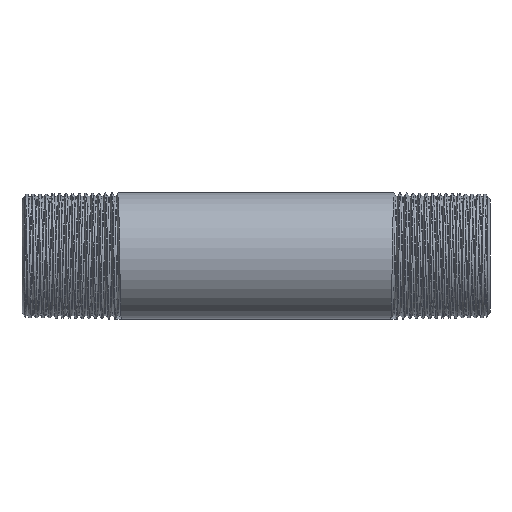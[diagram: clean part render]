
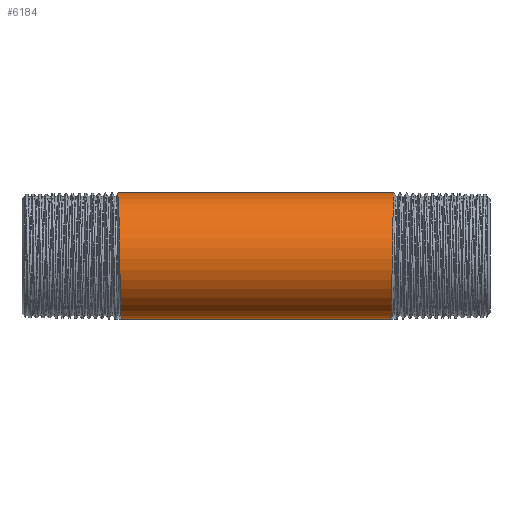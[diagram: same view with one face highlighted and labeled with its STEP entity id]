
A CAD part, front view. The second image highlights one B-rep face of the part: STEP entity #6184.
In plain terms, the highlighted cylindrical face has radius 6.75 mm (diameter 13.5 mm), a partial arc.
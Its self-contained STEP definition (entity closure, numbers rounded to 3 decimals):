
#866 = DIRECTION ( 'NONE',  ( -1., 0., 0. ) ) ;
#953 = EDGE_CURVE ( 'NONE', #4071, #3941, #4096, .T. ) ;
#1038 = ORIENTED_EDGE ( 'NONE', *, *, #4895, .F. ) ;
#1059 = CARTESIAN_POINT ( 'NONE',  ( 14.563, -7.794, 0. ) ) ;
#1094 = ORIENTED_EDGE ( 'NONE', *, *, #953, .T. ) ;
#1161 = CARTESIAN_POINT ( 'NONE',  ( -149.494, 0., 0. ) ) ;
#1484 = CARTESIAN_POINT ( 'NONE',  ( -14.738, 0., 6.75 ) ) ;
#1615 = CARTESIAN_POINT ( 'NONE',  ( -14.679, -3.897, 6.75 ) ) ;
#3772 = EDGE_CURVE ( 'NONE', #3941, #7295, #9510, .T. ) ;
#3941 = VERTEX_POINT ( 'NONE', #9592 ) ;
#3948 = CARTESIAN_POINT ( 'NONE',  ( -14.563, -7.794, 0. ) ) ;
#3999 = CARTESIAN_POINT ( 'NONE',  ( -14.621, -5.846, 3.375 ) ) ;
#4071 = VERTEX_POINT ( 'NONE', #4105 ) ;
#4096 =( BOUNDED_CURVE ( )  B_SPLINE_CURVE ( 2, ( #5228, #6165, #5287, #1059, #10165, #6986, #8518 ),
 .UNSPECIFIED., .F., .F. ) 
 B_SPLINE_CURVE_WITH_KNOTS ( ( 3, 2, 2, 3 ),
 ( 0., 0.007, 0.014, 0.021 ),
 .UNSPECIFIED. ) 
 CURVE ( )  GEOMETRIC_REPRESENTATION_ITEM ( )  RATIONAL_B_SPLINE_CURVE ( ( 1., 0.866, 1., 0.866, 1., 0.866, 1. ) ) 
 REPRESENTATION_ITEM ( '' )  );
#4105 = CARTESIAN_POINT ( 'NONE',  ( 14.388, 0., -6.75 ) ) ;
#4338 = ORIENTED_EDGE ( 'NONE', *, *, #5493, .F. ) ;
#4514 = CYLINDRICAL_SURFACE ( 'NONE', #6613, 6.75 ) ;
#4762 = VERTEX_POINT ( 'NONE', #5551 ) ;
#4769 = CARTESIAN_POINT ( 'NONE',  ( -14.446, -3.897, -6.75 ) ) ;
#4895 = EDGE_CURVE ( 'NONE', #4071, #4762, #9980, .T. ) ;
#5228 = CARTESIAN_POINT ( 'NONE',  ( 14.388, 0., -6.75 ) ) ;
#5287 = CARTESIAN_POINT ( 'NONE',  ( 14.504, -5.846, -3.375 ) ) ;
#5347 = DIRECTION ( 'NONE',  ( -1., 0., 0. ) ) ;
#5399 = VECTOR ( 'NONE', #866, 1000. ) ;
#5493 = EDGE_CURVE ( 'NONE', #4762, #7295, #10632, .T. ) ;
#5551 = CARTESIAN_POINT ( 'NONE',  ( -14.388, 0., -6.75 ) ) ;
#5905 = CARTESIAN_POINT ( 'NONE',  ( -14.738, 0., 6.75 ) ) ;
#6035 = EDGE_LOOP ( 'NONE', ( #1038, #1094, #9558, #4338 ) ) ;
#6165 = CARTESIAN_POINT ( 'NONE',  ( 14.446, -3.897, -6.75 ) ) ;
#6184 = ADVANCED_FACE ( 'NONE', ( #10274 ), #4514, .T. ) ;
#6613 = AXIS2_PLACEMENT_3D ( 'NONE', #1161, #9444, #10386 ) ;
#6986 = CARTESIAN_POINT ( 'NONE',  ( 14.679, -3.897, 6.75 ) ) ;
#7295 = VERTEX_POINT ( 'NONE', #1484 ) ;
#8165 = CARTESIAN_POINT ( 'NONE',  ( -14.388, 0., -6.75 ) ) ;
#8381 = CARTESIAN_POINT ( 'NONE',  ( -149.494, 0., -6.75 ) ) ;
#8518 = CARTESIAN_POINT ( 'NONE',  ( 14.738, 0., 6.75 ) ) ;
#8988 = CARTESIAN_POINT ( 'NONE',  ( -14.504, -5.846, -3.375 ) ) ;
#9444 = DIRECTION ( 'NONE',  ( -1., 0., 0. ) ) ;
#9510 = LINE ( 'NONE', #10113, #9940 ) ;
#9558 = ORIENTED_EDGE ( 'NONE', *, *, #3772, .T. ) ;
#9592 = CARTESIAN_POINT ( 'NONE',  ( 14.738, 0., 6.75 ) ) ;
#9940 = VECTOR ( 'NONE', #5347, 1000. ) ;
#9980 = LINE ( 'NONE', #8381, #5399 ) ;
#10113 = CARTESIAN_POINT ( 'NONE',  ( -149.494, 0., 6.75 ) ) ;
#10165 = CARTESIAN_POINT ( 'NONE',  ( 14.621, -5.846, 3.375 ) ) ;
#10274 = FACE_OUTER_BOUND ( 'NONE', #6035, .T. ) ;
#10386 = DIRECTION ( 'NONE',  ( 0., 0., 1. ) ) ;
#10632 =( BOUNDED_CURVE ( )  B_SPLINE_CURVE ( 2, ( #8165, #4769, #8988, #3948, #3999, #1615, #5905 ),
 .UNSPECIFIED., .F., .F. ) 
 B_SPLINE_CURVE_WITH_KNOTS ( ( 3, 2, 2, 3 ),
 ( 0., 0.007, 0.014, 0.021 ),
 .UNSPECIFIED. ) 
 CURVE ( )  GEOMETRIC_REPRESENTATION_ITEM ( )  RATIONAL_B_SPLINE_CURVE ( ( 1., 0.866, 1., 0.866, 1., 0.866, 1. ) ) 
 REPRESENTATION_ITEM ( '' )  );
